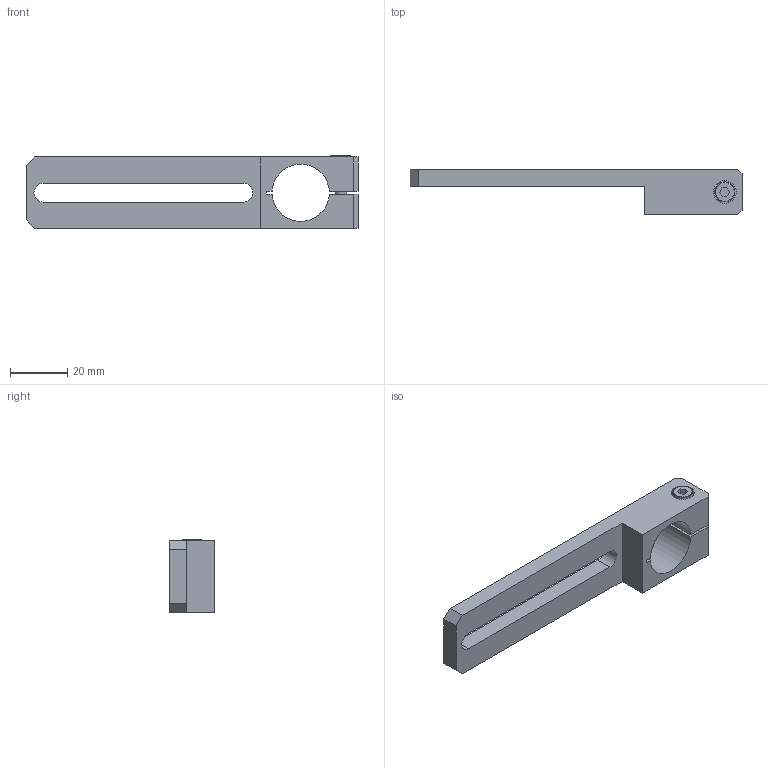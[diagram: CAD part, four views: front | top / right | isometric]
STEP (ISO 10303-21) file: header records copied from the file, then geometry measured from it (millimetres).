
FILE_DESCRIPTION (( 'STEP AP214' ), '1' );
FILE_NAME ('SCF4-2070W25T.STEP', '2023-01-17T06:21:03', ( 'Windows User' ), ( 'P R C' ), 'SwSTEP 2.0', 'SolidWorks 2019', '' );
FILE_SCHEMA (( 'AUTOMOTIVE_DESIGN' ));
Length unit declared in the file: millimetre
Products named in the file (1): SCF4-2070W25T
Bounding box: 116 x 16 x 25.5 mm (x, y, z)
Volume: 17490.6 mm3; surface area: 10082.6 mm2
Topology: 3 solids, 3 shells, 248 faces, 711 edges, 470 vertices
Faces by surface type: plane 225, cylinder 19, cone 2, bspline 2
Entity records: 11044 total; most frequent: CARTESIAN_POINT 1554, DIRECTION 1425, ORIENTED_EDGE 1422, EDGE_CURVE 711, VECTOR 483, LINE 483, AXIS2_PLACEMENT_3D 471, VERTEX_POINT 470
